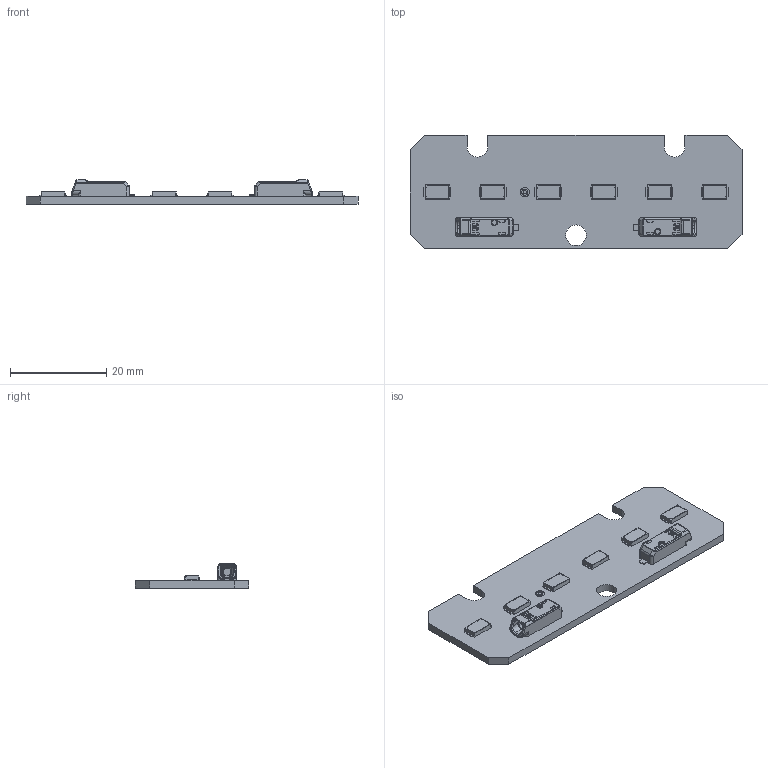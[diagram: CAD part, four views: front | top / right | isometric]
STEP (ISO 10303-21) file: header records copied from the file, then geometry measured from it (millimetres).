
FILE_DESCRIPTION (( 'STEP AP214' ), '1' );
FILE_NAME ('16207822_lle-g4-70-325lm-adv.STEP', '2017-09-14T08:55:42', ( 'Zumtobel' ), ( 'Zumtobel' ), 'SwSTEP 2.0', 'SolidWorks 2014', '' );
FILE_SCHEMA (( 'AUTOMOTIVE_DESIGN' ));
Length unit declared in the file: millimetre
Products named in the file (14): LED6; LED4; LED3; LED-LG5630; 0001255765; 16207822_lle-g4-70-325lm-adv; S241(A)_Modul; ET_MICROCON-SMD-1POL-; Board; ASSEMBLY; S241(A)_Platine; LED5; LED2; LED1
Assembly tree (19 placements, depth 5):
  16207822_lle-g4-70-325lm-adv
    S241(A)_Modul
      LED3
        LED-LG5630
          0001255765
      LED4
        LED-LG5630
          0001255765
      LED6
        LED-LG5630
          0001255765
      LED1
        LED-LG5630
          0001255765
      LED2
        LED-LG5630
          0001255765
      LED5
        LED-LG5630
          0001255765
      Board
        ASSEMBLY
          S241(A)_Platine
      ET_MICROCON-SMD-1POL-  x2
Bounding box: 69 x 23.6 x 5.1 mm (x, y, z)
Volume: 2899.3 mm3; surface area: 4169.7 mm2
Topology: 9 solids, 9 shells, 747 faces, 1930 edges, 1216 vertices
Faces by surface type: plane 355, cylinder 208, bspline 148, cone 36
Entity records: 15782 total; most frequent: CARTESIAN_POINT 5404, ORIENTED_EDGE 1588, DIRECTION 1149, EDGE_CURVE 794, VERTEX_POINT 496, LINE 399, VECTOR 399, AXIS2_PLACEMENT_3D 375
